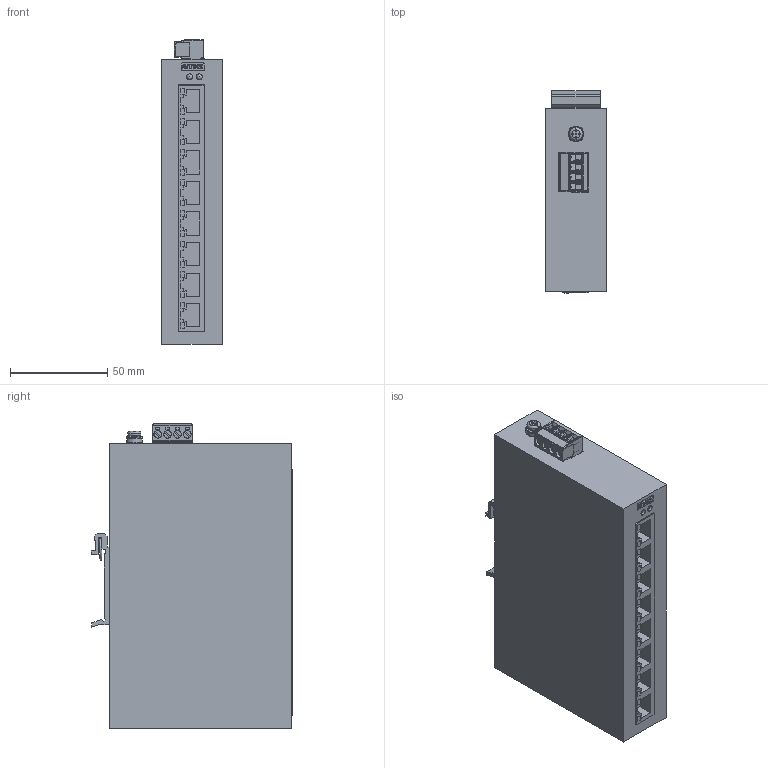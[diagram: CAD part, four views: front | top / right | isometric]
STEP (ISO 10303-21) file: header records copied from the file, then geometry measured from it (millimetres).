
FILE_DESCRIPTION(('TFLEX Exchange Step'),'2;1');
FILE_NAME('70310026_STEZ1008G-T.stp', '2025-08-26T14:11:28+03:00',('YLedovskikh'),('Unknown organisation'),'TFLEX Exchange 2023.2','T-FLEX CAD','Unknown authorisation');
FILE_SCHEMA( ('AUTOMOTIVE_DESIGN { 1 0 10303 214 1 1 1 1 }') );
Length unit declared in the file: millimetre
Products named in the file (1): Тело_17:1
Bounding box: 31 x 104 x 157 mm (x, y, z)
Volume: 425464.4 mm3; surface area: 63016.6 mm2
Topology: 3 solids, 16 shells, 1210 faces, 3531 edges, 2352 vertices
Faces by surface type: plane 788, cylinder 207, bspline 160, extrusion 16, cone 16, torus 15, sphere 8
Full cylindrical faces by diameter (mm): 1 x3, 1.3 x4, 3 x6, 3.25 x2, 3.821 x4, 4 x6, 4.4 x1, 6.8 x1, 8 x1
Entity records: 42294 total; most frequent: CARTESIAN_POINT 10731, ORIENTED_EDGE 7042, DIRECTION 5660, EDGE_CURVE 3521, VECTOR 2438, LINE 2422, VERTEX_POINT 2348, AXIS2_PLACEMENT_3D 1611
